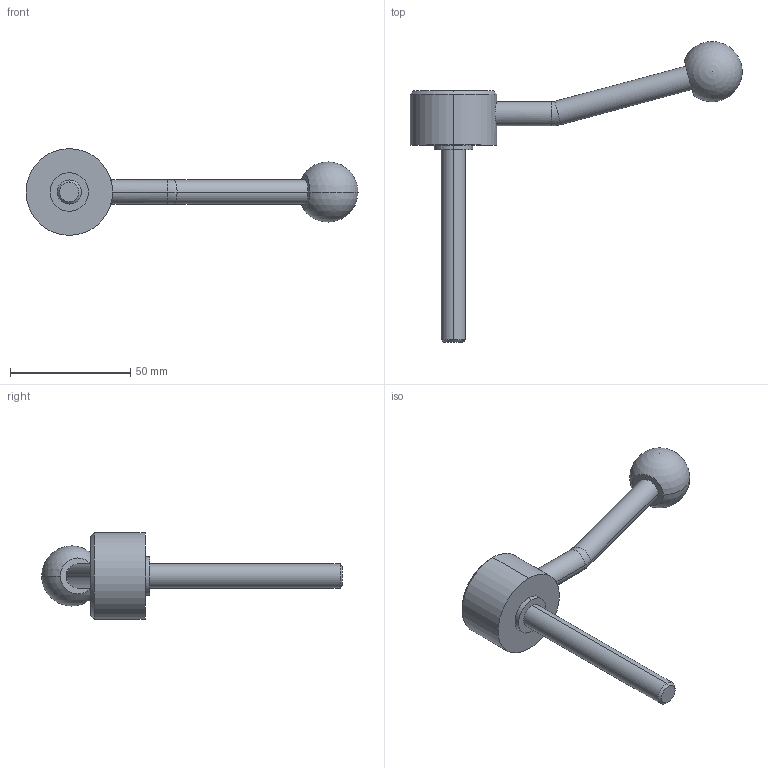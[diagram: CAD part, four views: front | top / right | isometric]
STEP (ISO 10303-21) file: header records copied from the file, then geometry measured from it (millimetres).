
FILE_DESCRIPTION (( 'STEP AP214' ), '1' );
FILE_NAME ('125.5-36-M10-80-E.step', '2020-02-18T11:32:16', ( '' ), ( '' ), 'SwSTEP 2.0', 'SolidWorks 2019', '' );
FILE_SCHEMA (( 'AUTOMOTIVE_DESIGN' ));
Length unit declared in the file: millimetre
Products named in the file (1): 125.5-36-M10-80-E
Bounding box: 137.95 x 125 x 36 mm (x, y, z)
Volume: 43935.1 mm3; surface area: 11450.9 mm2
Topology: 1 solids, 1 shells, 26 faces, 55 edges, 34 vertices
Faces by surface type: cylinder 12, plane 6, cone 4, torus 2, sphere 2
Entity records: 840 total; most frequent: CARTESIAN_POINT 182, DIRECTION 134, ORIENTED_EDGE 100, AXIS2_PLACEMENT_3D 59, EDGE_CURVE 50, CIRCLE 32, EDGE_LOOP 31, VERTEX_POINT 31
